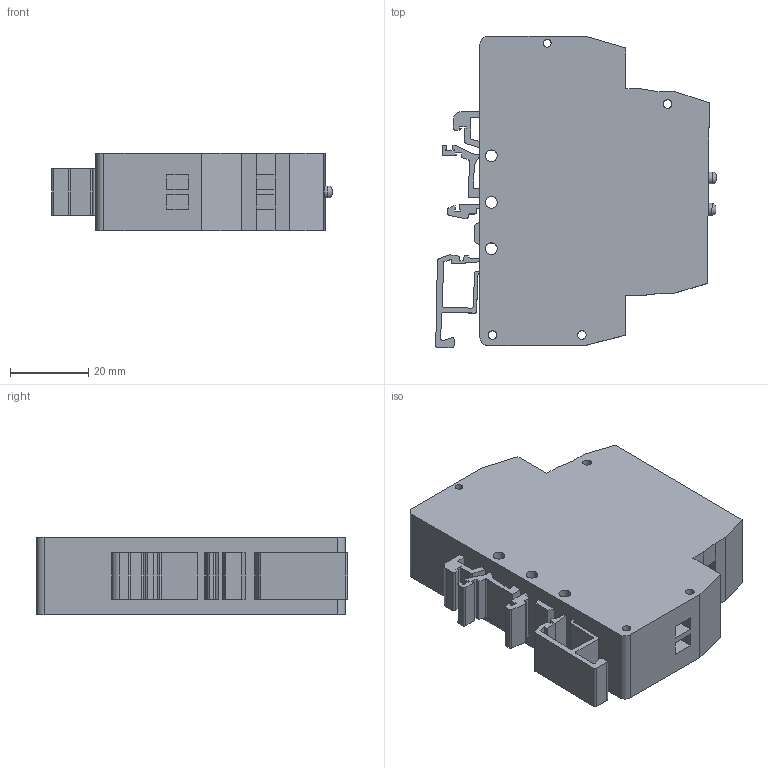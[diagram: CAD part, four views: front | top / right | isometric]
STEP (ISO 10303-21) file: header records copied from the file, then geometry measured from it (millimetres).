
FILE_DESCRIPTION(('STEP AP203'), '1');
FILE_NAME('NL-1W485A', '', ('UNSPECIFIED'), ('UNSPECIFIED'), 'ASCON STEP Converter 1.6', 'ASCON Math Kernel', '');
FILE_SCHEMA(('CONFIG_CONTROL_DESIGN'));
Length unit declared in the file: millimetre
Bounding box: 71.73 x 79.53 x 19.8 mm (x, y, z)
Volume: 79342.6 mm3; surface area: 18000.6 mm2
Topology: 1 solids, 1 shells, 212 faces, 572 edges, 376 vertices
Faces by surface type: plane 168, cylinder 42, torus 2
Full cylindrical faces by diameter (mm): 2 x1, 2.2 x3, 3 x5, 3.6 x8
Entity records: 8268 total; most frequent: CARTESIAN_POINT 1142, ORIENTED_EDGE 1106, DIRECTION 1071, EDGE_CURVE 553, LINE 461, VECTOR 461, VERTEX_POINT 376, AXIS2_PLACEMENT_3D 305
